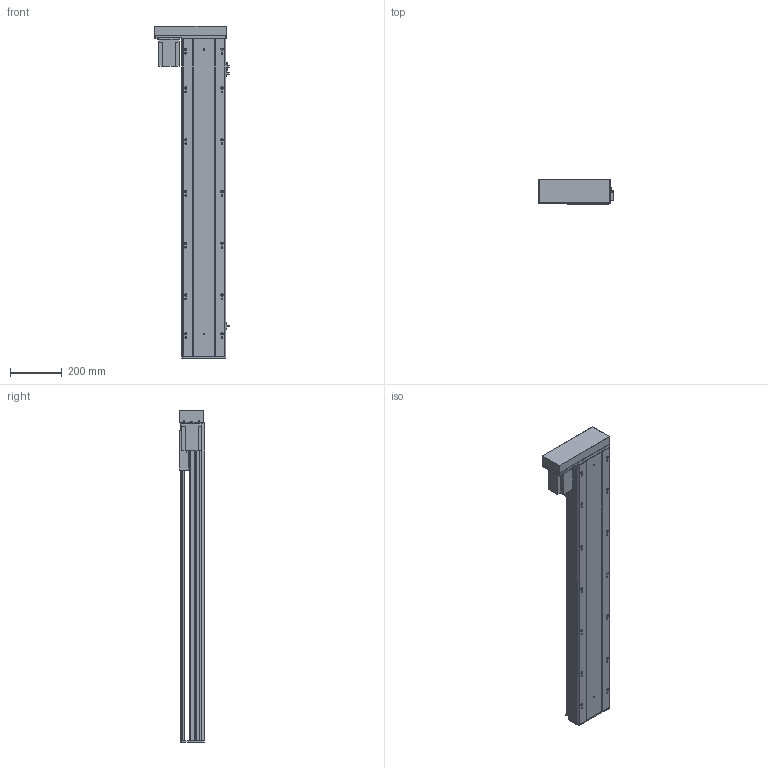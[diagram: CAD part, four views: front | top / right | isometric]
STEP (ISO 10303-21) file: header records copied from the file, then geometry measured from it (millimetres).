
FILE_DESCRIPTION (( 'STEP AP203' ), '1' );
FILE_NAME ('Y170-D10-S1000-BL-P750W.STEP', '2020-01-19T23:08:33', ( '微软用户' ), ( '微软中国' ), 'SwSTEP 2.0', 'SolidWorks 2017', '' );
FILE_SCHEMA (( 'CONFIG_CONTROL_DESIGN' ));
Length unit declared in the file: millimetre
Products named in the file (12): EGH20賑輸_蕼偞; Y雄赽釱-耜蚾; Y-BL.BR-俋欶; Y170耜裔--準---; Y170-陔遴奻裔-BR; YD-Y100-135-新外置传感挡片(通用）; Y--BL蟀諉啣-陔遴-; Y100-135俋离換覜ん; Y170-D10-S1000-BL-P750W; 170--掛极-BR; Y170-BL-P750W楊擘啣; 侂狟750W
Assembly tree (14 placements, depth 2):
  Y170-D10-S1000-BL-P750W
    Y170耜裔--準---
    YD-Y100-135-新外置传感挡片(通用）
    Y100-135俋离換覜ん  x3
    170--掛极-BR
    Y170-BL-P750W楊擘啣
    侂狟750W
    EGH20賑輸_蕼偞  x2
    Y雄赽釱-耜蚾
    Y-BL.BR-俋欶
    Y170-陔遴奻裔-BR
    Y--BL蟀諉啣-陔遴-
Bounding box: 289 x 97 x 1283.5 mm (x, y, z)
Volume: 6082612.4 mm3; surface area: 2108060.2 mm2
Topology: 14 solids, 14 shells, 933 faces, 2642 edges, 1744 vertices
Faces by surface type: cylinder 474, plane 443, cone 16
Entity records: 29690 total; most frequent: CARTESIAN_POINT 5302, DIRECTION 4908, ORIENTED_EDGE 4780, EDGE_CURVE 2390, AXIS2_PLACEMENT_3D 1746, VERTEX_POINT 1588, VECTOR 1416, LINE 1416
